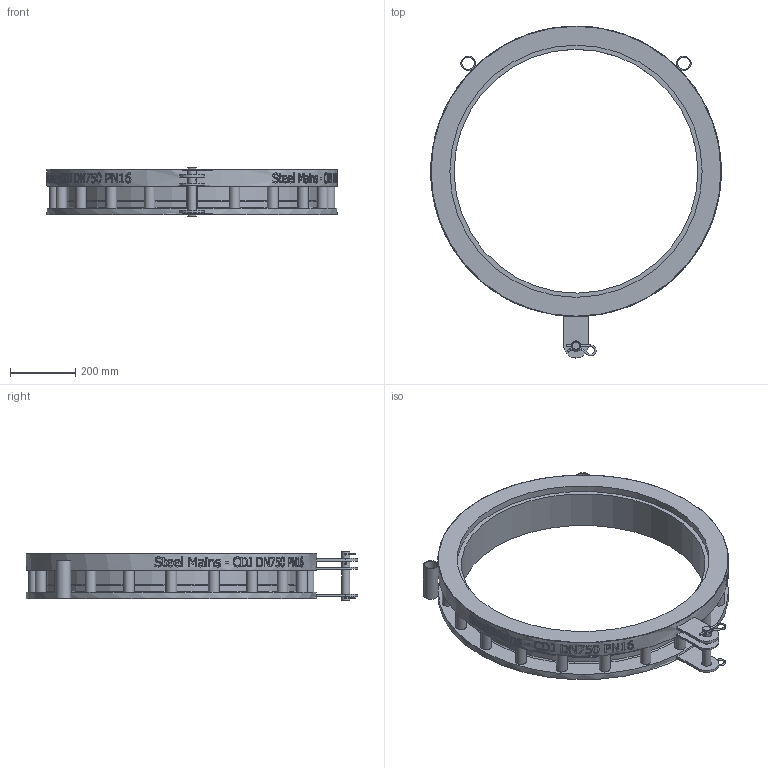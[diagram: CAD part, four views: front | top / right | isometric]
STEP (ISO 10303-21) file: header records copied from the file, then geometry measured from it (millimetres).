
FILE_DESCRIPTION(/* description */ (''),/* implementation_level */ '2;1');
FILE_NAME(/* name */ 'C:\Vault\Designs\Somerton\196\196-19 Models\Marketing Files\SteelMains - CDJ DN750 PN16 - (196-19T rev C).stp',/* time_stamp */ '2025-08-22T14:07:14+10:00',/* author */ ('Sam.Cavallaro'),/* organization */ (''),/* preprocessor_version */ 'ST-DEVELOPER v18.1',/* originating_system */ 'Autodesk Inventor 2021',/* authorisation */ '');
FILE_SCHEMA (('AUTOMOTIVE_DESIGN { 1 0 10303 214 3 1 1 }'));
Length unit declared in the file: millimetre
Products named in the file (1): SPS_ENG-084499
Bounding box: 894 x 1021.44 x 151 mm (x, y, z)
Volume: 15932838 mm3; surface area: 1630862.8 mm2
Topology: 6 solids, 6 shells, 809 faces, 2196 edges, 1465 vertices
Faces by surface type: bspline 370, plane 311, cylinder 115, torus 8, cone 5
Full cylindrical faces by diameter (mm): 4.8 x10, 6 x3, 25 x1, 30 x3, 33 x20, 38.1 x2, 44.5 x2, 750 x1, 770 x1, 774 x1, 776 x1, 894 x1
Entity records: 35273 total; most frequent: CARTESIAN_POINT 16671, ORIENTED_EDGE 4398, DIRECTION 2733, EDGE_CURVE 2199, VERTEX_POINT 1468, LINE 1025, VECTOR 1025, EDGE_LOOP 933
